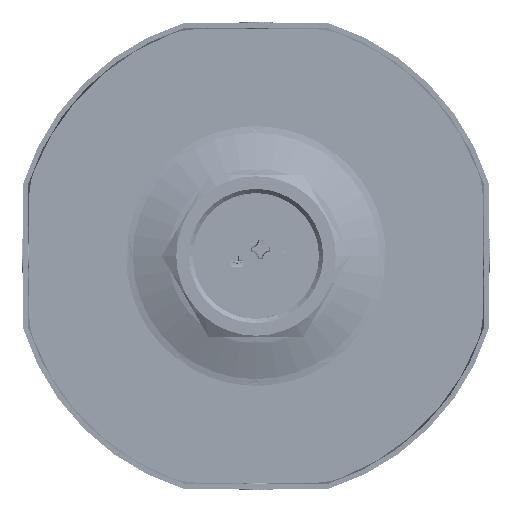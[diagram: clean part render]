
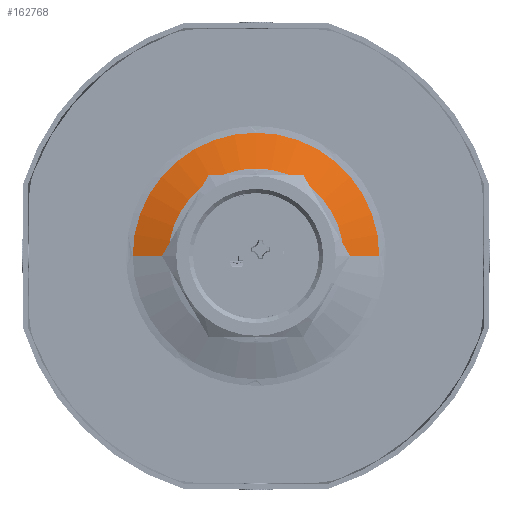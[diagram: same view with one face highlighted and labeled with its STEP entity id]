
A CAD part, front view. The second image highlights one B-rep face of the part: STEP entity #162768.
In plain terms, the highlighted conical face has half-angle 70 degrees and reference radius 20.422 mm.
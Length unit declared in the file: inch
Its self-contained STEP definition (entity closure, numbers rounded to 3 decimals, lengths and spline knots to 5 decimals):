
#6313 = EDGE_CURVE ( 'NONE', #247746, #253257, #11972, .T. ) ;
#11972 = LINE ( 'NONE', #30419, #168514 ) ;
#22818 = AXIS2_PLACEMENT_3D ( 'NONE', #103321, #200675, #201974 ) ;
#25926 = EDGE_CURVE ( 'NONE', #141170, #145887, #180022, .T. ) ;
#30419 = CARTESIAN_POINT ( 'NONE',  ( 0.80404, -0.00754, 0. ) ) ;
#31496 = AXIS2_PLACEMENT_3D ( 'NONE', #156264, #236500, #216743 ) ;
#33984 = EDGE_CURVE ( 'NONE', #253257, #145887, #145104, .T. ) ;
#37924 = DIRECTION ( 'NONE',  ( -0.94, 0.342, 0. ) ) ;
#44174 = CARTESIAN_POINT ( 'NONE',  ( 0., -0.00754, 0. ) ) ;
#52176 = CARTESIAN_POINT ( 'NONE',  ( 0.80404, -0.00754, 0. ) ) ;
#67851 = DIRECTION ( 'NONE',  ( 0., 1., 0. ) ) ;
#77768 = VECTOR ( 'NONE', #37924, 39.37008 ) ;
#78960 = CARTESIAN_POINT ( 'NONE',  ( -0.57071, -0.09246, 0. ) ) ;
#81882 = ORIENTED_EDGE ( 'NONE', *, *, #6313, .T. ) ;
#98230 = ORIENTED_EDGE ( 'NONE', *, *, #196124, .T. ) ;
#103321 = CARTESIAN_POINT ( 'NONE',  ( 0., -0.09246, 0. ) ) ;
#105047 = CARTESIAN_POINT ( 'NONE',  ( -0.80404, -0.00754, 0. ) ) ;
#108687 = DIRECTION ( 'NONE',  ( -1., 0., 0. ) ) ;
#116494 = CONICAL_SURFACE ( 'NONE', #192280, 0.80404, 1.222 ) ;
#141170 = VERTEX_POINT ( 'NONE', #78960 ) ;
#145104 = CIRCLE ( 'NONE', #31496, 0.80404 ) ;
#145887 = VERTEX_POINT ( 'NONE', #105047 ) ;
#152529 = CARTESIAN_POINT ( 'NONE',  ( 0.57071, -0.09246, 0. ) ) ;
#156264 = CARTESIAN_POINT ( 'NONE',  ( 0., -0.00754, 0. ) ) ;
#162768 = ADVANCED_FACE ( 'NONE', ( #208617 ), #116494, .T. ) ;
#168514 = VECTOR ( 'NONE', #230506, 39.37008 ) ;
#180022 = LINE ( 'NONE', #216915, #77768 ) ;
#191003 = CIRCLE ( 'NONE', #22818, 0.57071 ) ;
#192280 = AXIS2_PLACEMENT_3D ( 'NONE', #44174, #67851, #108687 ) ;
#196124 = EDGE_CURVE ( 'NONE', #141170, #247746, #191003, .T. ) ;
#197320 = ORIENTED_EDGE ( 'NONE', *, *, #25926, .F. ) ;
#200675 = DIRECTION ( 'NONE',  ( 0., 1., 0. ) ) ;
#201974 = DIRECTION ( 'NONE',  ( -1., 0., 0. ) ) ;
#208617 = FACE_OUTER_BOUND ( 'NONE', #259262, .T. ) ;
#216743 = DIRECTION ( 'NONE',  ( 1., 0., 0. ) ) ;
#216915 = CARTESIAN_POINT ( 'NONE',  ( -0.80404, -0.00754, 0. ) ) ;
#230506 = DIRECTION ( 'NONE',  ( 0.94, 0.342, 0. ) ) ;
#233651 = ORIENTED_EDGE ( 'NONE', *, *, #33984, .T. ) ;
#236500 = DIRECTION ( 'NONE',  ( 0., -1., 0. ) ) ;
#247746 = VERTEX_POINT ( 'NONE', #152529 ) ;
#253257 = VERTEX_POINT ( 'NONE', #52176 ) ;
#259262 = EDGE_LOOP ( 'NONE', ( #98230, #81882, #233651, #197320 ) ) ;
